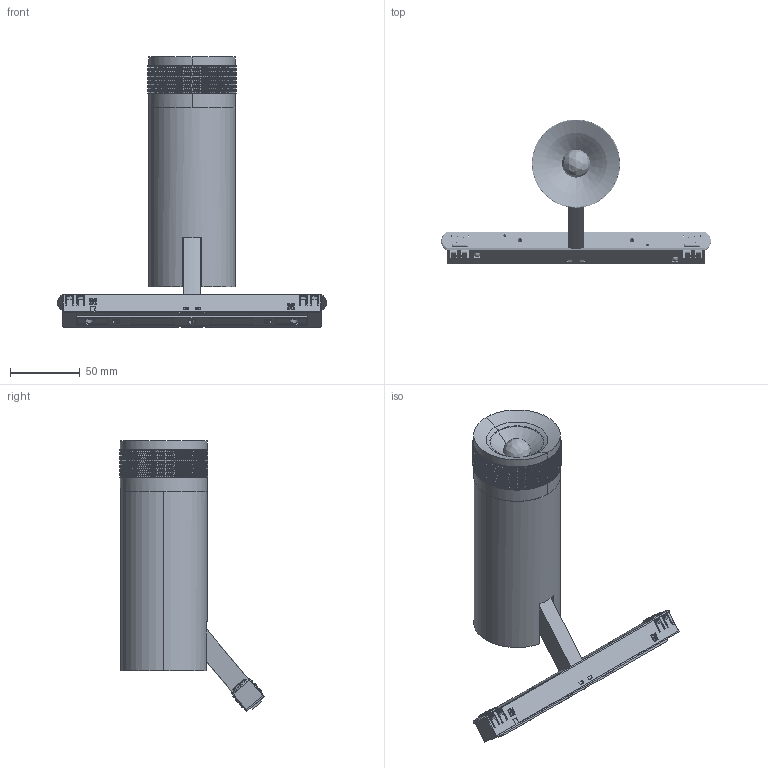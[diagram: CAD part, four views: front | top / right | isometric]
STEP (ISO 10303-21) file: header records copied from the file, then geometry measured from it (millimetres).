
FILE_DESCRIPTION (( 'STEP AP203' ), '1' );
FILE_NAME ('410128.STEP', '2025-04-02T02:52:28', ( '微软用户' ), ( '微软中国' ), 'SwSTEP 2.0', 'SolidWorks 2020', '' );
FILE_SCHEMA (( 'CONFIG_CONTROL_DESIGN' ));
Length unit declared in the file: millimetre
Products named in the file (18): MANIFOLD_SOLID_BREP_1145; MANIFOLD_SOLID_BREP_1156; 63_DENG_TONG; MANIFOLD_SOLID_BREP_1146; 10-07-WJ1; 15X25MM_BAIBI_HUODONG_2; MANIFOLD_SOLID_BREP_1147; 10-08-G1_1; LVJI_BAN____2; MANIFOLD_SOLID_BREP_1148; 10-10-gk-2; 63_GUNHUA_LVJIAN; MANIFOLD_SOLID_BREP_1149; 410128; 56X18MM_NEI_HUAN; MANIFOLD_SOLID_BREP_1150; 45X18MM_TOU_JING; MANIFOLD_SOLID_BREP_1155
Assembly tree (17 placements, depth 3):
  410128
    63_DENG_TONG
    15X25MM_BAIBI_HUODONG_2
    LVJI_BAN____2
    63_GUNHUA_LVJIAN
    56X18MM_NEI_HUAN
    45X18MM_TOU_JING
    10-10-gk-2
      MANIFOLD_SOLID_BREP_1145
      MANIFOLD_SOLID_BREP_1146
      MANIFOLD_SOLID_BREP_1147
      MANIFOLD_SOLID_BREP_1148
      MANIFOLD_SOLID_BREP_1149
      MANIFOLD_SOLID_BREP_1150
      MANIFOLD_SOLID_BREP_1155
      MANIFOLD_SOLID_BREP_1156
      10-07-WJ1
      10-08-G1_1
Bounding box: 192.8 x 103.33 x 193.16 mm (x, y, z)
Volume: 468163.6 mm3; surface area: 104701.6 mm2
Topology: 20 solids, 20 shells, 5315 faces, 13663 edges, 8421 vertices
Faces by surface type: bspline 2029, plane 1859, cylinder 1370, cone 57
Entity records: 333295 total; most frequent: CARTESIAN_POINT 227132, ORIENTED_EDGE 27326, EDGE_CURVE 13663, DIRECTION 12264, B_SPLINE_CURVE_WITH_KNOTS 9027, VERTEX_POINT 8421, EDGE_LOOP 5440, FACE_OUTER_BOUND 5315
